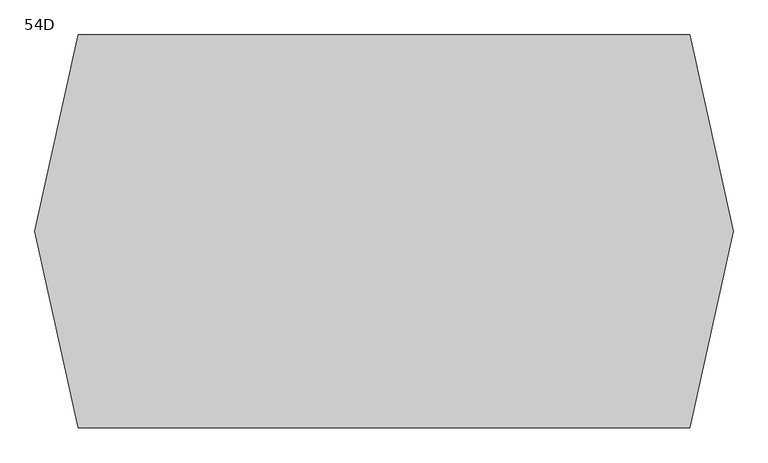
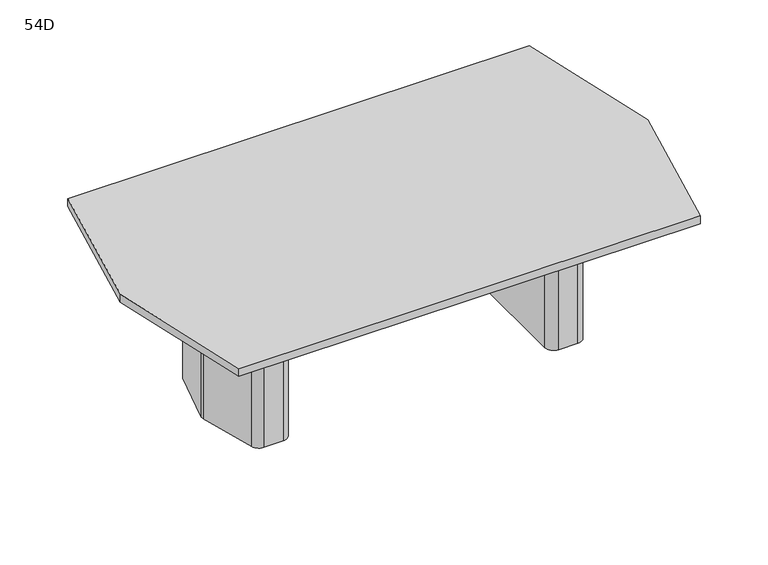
"""IFC4 building model written with IfcOpenShell, lengths in millimetres: furniture geometry, Coalesse_AM_Table_Conference_ETable2_Faceted_96in_TwoBase : 54D."""

from ifc_helpers import new_model, si_unit, frame, origin, place, context, project, spatial, polyline, circle_curve, outline, extrude, source, transform, mapped, element, save
from ifc_brep_helpers import plane_surface, cylinder_surface, revolved_surface, advanced_brep


def furniture_54d_9dfbddc2(model_context):
    return source(origin(), model_context, "Body", "SolidModel", [
        advanced_brep(
        [(760.624548, 274.2093613, 698.5), (720.7579246, 304.8, 698.5), (631.825, 304.8, 698.5), (590.55, 263.525, 698.5), (590.55, -263.525, 698.5), (631.825, -304.8, 698.5), (720.7579246, -304.8, 698.5), (760.624548, -274.2093613, 698.5), (831.2503901, -10.6333708, 698.5), (831.2503901, 10.6333708, 698.5), (628.65, -206.375, 698.5), (628.65, 206.375, 698.5), (654.05, 231.775, 698.5), (713.0608422, 231.775, 698.5), (737.595338, 212.9490792, 698.5), (776.2875, 68.54974, 698.5), (776.2875, -68.54974, 698.5), (737.595338, -212.9490792, 698.5), (713.0608422, -231.775, 698.5), (654.05, -231.775, 698.5), (760.624548, 274.2093613, 3.175), (831.2503901, 10.6333708, 3.175), (831.2503901, -10.6333708, 3.175), (760.624548, -274.2093613, 3.175), (720.7579246, -304.8, 3.175), (631.825, -304.8, 3.175), (590.55, -263.525, 3.175), (590.55, 263.525, 3.175), (631.825, 304.8, 3.175), (720.7579246, 304.8, 3.175), (749.8625859, 216.2361187, 3.175), (713.0608422, 244.475, 3.175), (654.05, 244.475, 3.175), (615.95, 206.375, 3.175), (615.95, -206.375, 3.175), (654.05, -244.475, 3.175), (713.0608422, -244.475, 3.175), (749.8625859, -216.2361187, 3.175), (788.9875, -70.2217466, 3.175), (788.9875, 70.2217466, 3.175), (654.05, -231.775, 3.175), (628.65, -206.375, 3.175), (713.0608422, -231.775, 3.175), (737.595338, -212.9490792, 3.175), (776.2875, -68.54974, 3.175), (776.2875, 68.54974, 3.175), (737.595338, 212.9490792, 3.175), (713.0608422, 231.775, 3.175), (654.05, 231.775, 3.175), (628.65, 206.375, 3.175), (749.8625859, 216.2361187, 0.0), (788.9875, 70.2217466, 0.0), (788.9875, -70.2217466, 0.0), (749.8625859, -216.2361187, 0.0), (713.0608422, -244.475, 0.0), (654.05, -244.475, 0.0), (615.95, -206.375, 0.0), (615.95, 206.375, 0.0), (654.05, 244.475, 0.0), (713.0608422, 244.475, 0.0)],
        [
            (0, 1, circle_curve(frame((720.7579246, 263.5270004, 698.5), z_axis=(0.0, 0.0, 1.0), x_axis=(-1.0, 0.0, 0.0)), 41.2729996)),
            (1, 2),
            (2, 3, circle_curve(frame((631.825, 263.525, 698.5), z_axis=(0.0, 0.0, 1.0), x_axis=(-1.0, 0.0, 0.0)), 41.275)),
            (3, 4),
            (4, 5, circle_curve(frame((631.825, -263.525, 698.5), z_axis=(0.0, 0.0, 1.0), x_axis=(-1.0, 0.0, 0.0)), 41.275)),
            (5, 6),
            (6, 7, circle_curve(frame((720.7579246, -263.5270004, 698.5), z_axis=(0.0, 0.0, 1.0), x_axis=(-1.0, 0.0, 0.0)), 41.2729996)),
            (7, 8),
            (8, 9, circle_curve(frame((791.5665979, 0.0, 698.5), z_axis=(0.0, 0.0, 1.0), x_axis=(-1.0, 0.0, 0.0)), 41.0837187)),
            (9, 0),
            (10, 11),
            (11, 12, circle_curve(frame((654.05, 206.375, 698.5), z_axis=(0.0, 0.0, -1.0), x_axis=(-1.0, 0.0, 0.0)), 25.4)),
            (12, 13),
            (13, 14, circle_curve(frame((713.0608422, 206.375, 698.5), z_axis=(0.0, 0.0, -1.0), x_axis=(-1.0, 0.0, 0.0)), 25.4)),
            (14, 15),
            (15, 16),
            (16, 17),
            (17, 18, circle_curve(frame((713.0608422, -206.375, 698.5), z_axis=(0.0, 0.0, -1.0), x_axis=(-1.0, 0.0, 0.0)), 25.4)),
            (18, 19),
            (19, 10, circle_curve(frame((654.05, -206.375, 698.5), z_axis=(0.0, 0.0, -1.0), x_axis=(-1.0, 0.0, 0.0)), 25.4)),
            (20, 21),
            (21, 22, circle_curve(frame((791.5665979, 0.0, 3.175), z_axis=(0.0, 0.0, -1.0), x_axis=(-1.0, 0.0, 0.0)), 41.0837187)),
            (22, 23),
            (23, 24, circle_curve(frame((720.7579246, -263.5270004, 3.175), z_axis=(0.0, 0.0, -1.0), x_axis=(-1.0, 0.0, 0.0)), 41.2729996)),
            (24, 25),
            (25, 26, circle_curve(frame((631.825, -263.525, 3.175), z_axis=(0.0, 0.0, -1.0), x_axis=(-1.0, 0.0, 0.0)), 41.275)),
            (26, 27),
            (27, 28, circle_curve(frame((631.825, 263.525, 3.175), z_axis=(0.0, 0.0, -1.0), x_axis=(-1.0, 0.0, 0.0)), 41.275)),
            (28, 29),
            (29, 20, circle_curve(frame((720.7579246, 263.5270004, 3.175), z_axis=(0.0, 0.0, -1.0), x_axis=(-1.0, 0.0, 0.0)), 41.2729996)),
            (30, 31, circle_curve(frame((713.0608422, 206.375, 3.175), z_axis=(0.0, 0.0, 1.0), x_axis=(-1.0, 0.0, 0.0)), 38.1)),
            (31, 32),
            (32, 33, circle_curve(frame((654.05, 206.375, 3.175), z_axis=(0.0, 0.0, 1.0), x_axis=(-1.0, 0.0, 0.0)), 38.1)),
            (33, 34),
            (34, 35, circle_curve(frame((654.05, -206.375, 3.175), z_axis=(0.0, 0.0, 1.0), x_axis=(-1.0, 0.0, 0.0)), 38.1)),
            (35, 36),
            (36, 37, circle_curve(frame((713.0608422, -206.375, 3.175), z_axis=(0.0, 0.0, 1.0), x_axis=(-1.0, 0.0, 0.0)), 38.1)),
            (37, 38),
            (38, 39),
            (39, 30),
            (9, 21),
            (20, 0),
            (8, 22),
            (7, 23),
            (6, 24),
            (5, 25),
            (4, 26),
            (3, 27),
            (2, 28),
            (1, 29),
            (19, 40),
            (40, 41, circle_curve(frame((654.05, -206.375, 3.175), z_axis=(0.0, 0.0, -1.0), x_axis=(-1.0, 0.0, 0.0)), 25.4)),
            (41, 10),
            (18, 42),
            (42, 40),
            (17, 43),
            (43, 42, circle_curve(frame((713.0608422, -206.375, 3.175), z_axis=(0.0, 0.0, -1.0), x_axis=(-1.0, 0.0, 0.0)), 25.4)),
            (16, 44),
            (44, 43),
            (15, 45),
            (45, 44),
            (14, 46),
            (46, 45),
            (13, 47),
            (47, 46, circle_curve(frame((713.0608422, 206.375, 3.175), z_axis=(0.0, 0.0, -1.0), x_axis=(-1.0, 0.0, 0.0)), 25.4)),
            (12, 48),
            (48, 47),
            (11, 49),
            (49, 48, circle_curve(frame((654.05, 206.375, 3.175), z_axis=(0.0, 0.0, -1.0), x_axis=(-1.0, 0.0, 0.0)), 25.4)),
            (41, 49),
            (50, 51),
            (51, 52),
            (52, 53),
            (53, 54, circle_curve(frame((713.0608422, -206.375, 0.0), z_axis=(0.0, 0.0, -1.0), x_axis=(-1.0, 0.0, 0.0)), 38.1)),
            (54, 55),
            (55, 56, circle_curve(frame((654.05, -206.375, 0.0), z_axis=(0.0, 0.0, -1.0), x_axis=(-1.0, 0.0, 0.0)), 38.1)),
            (56, 57),
            (57, 58, circle_curve(frame((654.05, 206.375, 0.0), z_axis=(0.0, 0.0, -1.0), x_axis=(-1.0, 0.0, 0.0)), 38.1)),
            (58, 59),
            (59, 50, circle_curve(frame((713.0608422, 206.375, 0.0), z_axis=(0.0, 0.0, -1.0), x_axis=(-1.0, 0.0, 0.0)), 38.1)),
            (50, 30),
            (39, 51),
            (38, 52),
            (37, 53),
            (36, 54),
            (35, 55),
            (34, 56),
            (33, 57),
            (32, 58),
            (31, 59),
        ],
        [
            plane_surface(frame((831.2374275, 10.6817473, 698.5), z_axis=(0.0, 0.0, 1.0000000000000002), x_axis=(0.25882201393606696, -0.9659250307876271, 0.0))),
            plane_surface(frame((831.2374275, 10.6817473, 3.175), z_axis=(0.0, 0.0, -1.0000000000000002), x_axis=(-0.25882201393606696, 0.9659250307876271, 0.0))),
            plane_surface(frame((760.624548, 274.2093613, 698.5), z_axis=(0.9659250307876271, 0.25882201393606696, 0.0), x_axis=(0.0, 0.0, -1.0))),
            cylinder_surface(frame((791.5665979, 0.0, 3.175), z_axis=(0.0, 0.0, 1.0), x_axis=(-1.0, 0.0, 0.0)), 41.0837187),
            plane_surface(frame((831.2503901, -10.6333708, 698.5), z_axis=(0.9659250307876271, -0.2588220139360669, 0.0), x_axis=(0.0, 0.0, -1.0))),
            cylinder_surface(frame((720.7579246, -263.5270004, 3.175), z_axis=(0.0, 0.0, 1.0), x_axis=(-1.0, 0.0, 0.0)), 41.2729996),
            plane_surface(frame((720.7579246, -304.8, 698.5), z_axis=(0.0, -1.0, 0.0), x_axis=(0.0, 0.0, -1.0))),
            cylinder_surface(frame((631.825, -263.525, 3.175), z_axis=(0.0, 0.0, 1.0), x_axis=(-1.0, 0.0, 0.0)), 41.275),
            plane_surface(frame((590.55, -263.525, 698.5), z_axis=(-1.0, 0.0, 0.0), x_axis=(0.0, 0.0, -1.0))),
            cylinder_surface(frame((631.825, 263.525, 3.175), z_axis=(0.0, 0.0, 1.0), x_axis=(-1.0, 0.0, 0.0)), 41.275),
            plane_surface(frame((631.825, 304.8, 698.5), z_axis=(0.0, 1.0, 0.0), x_axis=(0.0, 0.0, -1.0))),
            cylinder_surface(frame((720.7579246, 263.5270004, 3.175), z_axis=(0.0, 0.0, 1.0), x_axis=(-1.0, 0.0, 0.0)), 41.2729996),
            revolved_surface(polyline([(628.65, -206.375, 3.175), (628.65, -206.375, 698.5)]), (654.05, -206.375, 0.0), (0.0, 0.0, -1.0)),
            plane_surface(frame((654.05, -231.775, 698.5), z_axis=(0.0, 1.0, 0.0), x_axis=(0.0, 0.0, -1.0))),
            revolved_surface(polyline([(687.6608422, -206.375, 3.175), (687.6608422, -206.375, 698.5)]), (713.0608422, -206.375, 0.0), (0.0, 0.0, -1.0)),
            plane_surface(frame((737.595338, -212.9490792, 698.5), z_axis=(-0.9659250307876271, 0.2588220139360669, 0.0), x_axis=(0.0, 0.0, -1.0))),
            plane_surface(frame((776.2875, -68.54974, 698.5), z_axis=(-1.0, 0.0, 0.0), x_axis=(0.0, 0.0, -1.0))),
            plane_surface(frame((776.2875, 68.54974, 698.5), z_axis=(-0.9659250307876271, -0.25882201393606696, 0.0), x_axis=(0.0, 0.0, -1.0))),
            revolved_surface(polyline([(687.6608422, 206.375, 3.175), (687.6608422, 206.375, 698.5)]), (713.0608422, 206.375, 0.0), (0.0, 0.0, -1.0)),
            plane_surface(frame((713.0608422, 231.775, 698.5), z_axis=(0.0, -1.0, 0.0), x_axis=(0.0, 0.0, -1.0))),
            revolved_surface(polyline([(628.65, 206.375, 3.175), (628.65, 206.375, 698.5)]), (654.05, 206.375, 0.0), (0.0, 0.0, -1.0)),
            plane_surface(frame((628.65, 206.375, 698.5), z_axis=(1.0, 0.0, 0.0), x_axis=(0.0, 0.0, -1.0))),
            plane_surface(frame((788.5547479, 71.8367796, 3.175), z_axis=(0.0, 0.0, 1.0), x_axis=(0.25882201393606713, -0.965925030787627, 0.0))),
            plane_surface(frame((788.5547479, 71.8367796, 0.0), z_axis=(0.0, 0.0, -1.0), x_axis=(-0.25882201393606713, 0.965925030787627, 0.0))),
            plane_surface(frame((749.8625859, 216.2361187, 3.175), z_axis=(0.965925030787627, 0.25882201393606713, 0.0), x_axis=(0.0, 0.0, -1.0))),
            plane_surface(frame((788.9875, 70.2217466, 3.175), z_axis=(1.0, 0.0, 0.0), x_axis=(0.0, 0.0, -1.0))),
            plane_surface(frame((788.9875, -70.2217466, 3.175), z_axis=(0.9659250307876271, -0.2588220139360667, 0.0), x_axis=(0.0, 0.0, -1.0))),
            cylinder_surface(frame((713.0608422, -206.375, 0.0), z_axis=(0.0, 0.0, 1.0), x_axis=(-1.0, 0.0, 0.0)), 38.1),
            plane_surface(frame((713.0608422, -244.475, 3.175), z_axis=(0.0, -1.0, 0.0), x_axis=(0.0, 0.0, -1.0))),
            cylinder_surface(frame((654.05, -206.375, 0.0), z_axis=(0.0, 0.0, 1.0), x_axis=(-1.0, 0.0, 0.0)), 38.1),
            plane_surface(frame((615.95, -206.375, 3.175), z_axis=(-1.0, 0.0, 0.0), x_axis=(0.0, 0.0, -1.0))),
            cylinder_surface(frame((654.05, 206.375, 0.0), z_axis=(0.0, 0.0, 1.0), x_axis=(-1.0, 0.0, 0.0)), 38.1),
            plane_surface(frame((654.05, 244.475, 3.175), z_axis=(0.0, 1.0, 0.0), x_axis=(0.0, 0.0, -1.0))),
            cylinder_surface(frame((713.0608422, 206.375, 0.0), z_axis=(0.0, 0.0, 1.0), x_axis=(-1.0, 0.0, 0.0)), 38.1),
        ],
        [
            (0, [[1, 2, 3, 4, 5, 6, 7, 8, 9, 10], [11, 12, 13, 14, 15, 16, 17, 18, 19, 20]]),
            (1, [[21, 22, 23, 24, 25, 26, 27, 28, 29, 30], [31, 32, 33, 34, 35, 36, 37, 38, 39, 40]]),
            (2, [[41, -21, 42, -10]]),
            (3, [[43, -22, -41, -9]]),
            (4, [[44, -23, -43, -8]]),
            (5, [[45, -24, -44, -7]]),
            (6, [[46, -25, -45, -6]]),
            (7, [[47, -26, -46, -5]]),
            (8, [[48, -27, -47, -4]]),
            (9, [[49, -28, -48, -3]]),
            (10, [[50, -29, -49, -2]]),
            (11, [[-42, -30, -50, -1]]),
            (12, [[51, 52, 53, -20]]),
            (13, [[54, 55, -51, -19]]),
            (14, [[56, 57, -54, -18]]),
            (15, [[58, 59, -56, -17]]),
            (16, [[60, 61, -58, -16]]),
            (17, [[62, 63, -60, -15]]),
            (18, [[64, 65, -62, -14]]),
            (19, [[66, 67, -64, -13]]),
            (20, [[68, 69, -66, -12]]),
            (21, [[-53, 70, -68, -11]]),
            (22, [[-55, -57, -59, -61, -63, -65, -67, -69, -70, -52]]),
            (23, [[71, 72, 73, 74, 75, 76, 77, 78, 79, 80]]),
            (24, [[81, -40, 82, -71]]),
            (25, [[-82, -39, 83, -72]]),
            (26, [[-83, -38, 84, -73]]),
            (27, [[-84, -37, 85, -74]]),
            (28, [[-85, -36, 86, -75]]),
            (29, [[-86, -35, 87, -76]]),
            (30, [[-87, -34, 88, -77]]),
            (31, [[-88, -33, 89, -78]]),
            (32, [[-89, -32, 90, -79]]),
            (33, [[-90, -31, -81, -80]]),
        ],
    ),
        advanced_brep(
        [(-771.737048, 274.2093613, 698.5), (-842.3628901, 10.6333708, 698.5), (-842.3628901, -10.6333708, 698.5), (-771.737048, -274.2093613, 698.5), (-731.8704246, -304.8, 698.5), (-642.9375, -304.8, 698.5), (-601.6625, -263.525, 698.5), (-601.6625, 263.525, 698.5), (-642.9375, 304.8, 698.5), (-731.8704246, 304.8, 698.5), (-639.7625, -206.375, 698.5), (-665.1625, -231.775, 698.5), (-724.1733422, -231.775, 698.5), (-748.707838, -212.9490792, 698.5), (-787.4, -68.54974, 698.5), (-787.4, 68.54974, 698.5), (-748.707838, 212.9490792, 698.5), (-724.1733422, 231.775, 698.5), (-665.1625, 231.775, 698.5), (-639.7625, 206.375, 698.5), (-771.737048, 274.2093613, 3.175), (-731.8704246, 304.8, 3.175), (-642.9375, 304.8, 3.175), (-601.6625, 263.525, 3.175), (-601.6625, -263.525, 3.175), (-642.9375, -304.8, 3.175), (-731.8704246, -304.8, 3.175), (-771.737048, -274.2093613, 3.175), (-842.3628901, -10.6333708, 3.175), (-842.3628901, 10.6333708, 3.175), (-760.9750859, 216.2361187, 3.175), (-800.1, 70.2217466, 3.175), (-800.1, -70.2217466, 3.175), (-760.9750859, -216.2361187, 3.175), (-724.1733422, -244.475, 3.175), (-665.1625, -244.475, 3.175), (-627.0625, -206.375, 3.175), (-627.0625, 206.375, 3.175), (-665.1625, 244.475, 3.175), (-724.1733422, 244.475, 3.175), (-639.7625, -206.375, 3.175), (-665.1625, -231.775, 3.175), (-724.1733422, -231.775, 3.175), (-748.707838, -212.9490792, 3.175), (-787.4, -68.54974, 3.175), (-787.4, 68.54974, 3.175), (-748.707838, 212.9490792, 3.175), (-724.1733422, 231.775, 3.175), (-665.1625, 231.775, 3.175), (-639.7625, 206.375, 3.175), (-760.9750859, 216.2361187, 0.0), (-724.1733422, 244.475, 0.0), (-665.1625, 244.475, 0.0), (-627.0625, 206.375, 0.0), (-627.0625, -206.375, 0.0), (-665.1625, -244.475, 0.0), (-724.1733422, -244.475, 0.0), (-760.9750859, -216.2361187, 0.0), (-800.1, -70.2217466, 0.0), (-800.1, 70.2217466, 0.0)],
        [
            (0, 1),
            (1, 2, circle_curve(frame((-802.6790979, 0.0, 698.5), z_axis=(0.0, 0.0, 1.0), x_axis=(1.0, 0.0, 0.0)), 41.0837187)),
            (2, 3),
            (3, 4, circle_curve(frame((-731.8704246, -263.5270004, 698.5), z_axis=(0.0, 0.0, 1.0), x_axis=(1.0, 0.0, 0.0)), 41.2729996)),
            (4, 5),
            (5, 6, circle_curve(frame((-642.9375, -263.525, 698.5), z_axis=(0.0, 0.0, 1.0), x_axis=(1.0, 0.0, 0.0)), 41.275)),
            (6, 7),
            (7, 8, circle_curve(frame((-642.9375, 263.525, 698.5), z_axis=(0.0, 0.0, 1.0), x_axis=(1.0, 0.0, 0.0)), 41.275)),
            (8, 9),
            (9, 0, circle_curve(frame((-731.8704246, 263.5270004, 698.5), z_axis=(0.0, 0.0, 1.0), x_axis=(1.0, 0.0, 0.0)), 41.2729996)),
            (10, 11, circle_curve(frame((-665.1625, -206.375, 698.5), z_axis=(0.0, 0.0, -1.0), x_axis=(1.0, 0.0, 0.0)), 25.4)),
            (11, 12),
            (12, 13, circle_curve(frame((-724.1733422, -206.375, 698.5), z_axis=(0.0, 0.0, -1.0), x_axis=(1.0, 0.0, 0.0)), 25.4)),
            (13, 14),
            (14, 15),
            (15, 16),
            (16, 17, circle_curve(frame((-724.1733422, 206.375, 698.5), z_axis=(0.0, 0.0, -1.0), x_axis=(1.0, 0.0, 0.0)), 25.4)),
            (17, 18),
            (18, 19, circle_curve(frame((-665.1625, 206.375, 698.5), z_axis=(0.0, 0.0, -1.0), x_axis=(1.0, 0.0, 0.0)), 25.4)),
            (19, 10),
            (20, 21, circle_curve(frame((-731.8704246, 263.5270004, 3.175), z_axis=(0.0, 0.0, -1.0), x_axis=(1.0, 0.0, 0.0)), 41.2729996)),
            (21, 22),
            (22, 23, circle_curve(frame((-642.9375, 263.525, 3.175), z_axis=(0.0, 0.0, -1.0), x_axis=(1.0, 0.0, 0.0)), 41.275)),
            (23, 24),
            (24, 25, circle_curve(frame((-642.9375, -263.525, 3.175), z_axis=(0.0, 0.0, -1.0), x_axis=(1.0, 0.0, 0.0)), 41.275)),
            (25, 26),
            (26, 27, circle_curve(frame((-731.8704246, -263.5270004, 3.175), z_axis=(0.0, 0.0, -1.0), x_axis=(1.0, 0.0, 0.0)), 41.2729996)),
            (27, 28),
            (28, 29, circle_curve(frame((-802.6790979, 0.0, 3.175), z_axis=(0.0, 0.0, -1.0), x_axis=(1.0, 0.0, 0.0)), 41.0837187)),
            (29, 20),
            (30, 31),
            (31, 32),
            (32, 33),
            (33, 34, circle_curve(frame((-724.1733422, -206.375, 3.175), z_axis=(0.0, 0.0, 1.0), x_axis=(1.0, 0.0, 0.0)), 38.1)),
            (34, 35),
            (35, 36, circle_curve(frame((-665.1625, -206.375, 3.175), z_axis=(0.0, 0.0, 1.0), x_axis=(1.0, 0.0, 0.0)), 38.1)),
            (36, 37),
            (37, 38, circle_curve(frame((-665.1625, 206.375, 3.175), z_axis=(0.0, 0.0, 1.0), x_axis=(1.0, 0.0, 0.0)), 38.1)),
            (38, 39),
            (39, 30, circle_curve(frame((-724.1733422, 206.375, 3.175), z_axis=(0.0, 0.0, 1.0), x_axis=(1.0, 0.0, 0.0)), 38.1)),
            (0, 20),
            (29, 1),
            (28, 2),
            (27, 3),
            (26, 4),
            (25, 5),
            (24, 6),
            (23, 7),
            (22, 8),
            (21, 9),
            (10, 40),
            (40, 41, circle_curve(frame((-665.1625, -206.375, 3.175), z_axis=(0.0, 0.0, -1.0), x_axis=(1.0, 0.0, 0.0)), 25.4)),
            (41, 11),
            (41, 42),
            (42, 12),
            (42, 43, circle_curve(frame((-724.1733422, -206.375, 3.175), z_axis=(0.0, 0.0, -1.0), x_axis=(1.0, 0.0, 0.0)), 25.4)),
            (43, 13),
            (43, 44),
            (44, 14),
            (44, 45),
            (45, 15),
            (45, 46),
            (46, 16),
            (46, 47, circle_curve(frame((-724.1733422, 206.375, 3.175), z_axis=(0.0, 0.0, -1.0), x_axis=(1.0, 0.0, 0.0)), 25.4)),
            (47, 17),
            (47, 48),
            (48, 18),
            (48, 49, circle_curve(frame((-665.1625, 206.375, 3.175), z_axis=(0.0, 0.0, -1.0), x_axis=(1.0, 0.0, 0.0)), 25.4)),
            (49, 19),
            (49, 40),
            (50, 51, circle_curve(frame((-724.1733422, 206.375, 0.0), z_axis=(0.0, 0.0, -1.0), x_axis=(1.0, 0.0, 0.0)), 38.1)),
            (51, 52),
            (52, 53, circle_curve(frame((-665.1625, 206.375, 0.0), z_axis=(0.0, 0.0, -1.0), x_axis=(1.0, 0.0, 0.0)), 38.1)),
            (53, 54),
            (54, 55, circle_curve(frame((-665.1625, -206.375, 0.0), z_axis=(0.0, 0.0, -1.0), x_axis=(1.0, 0.0, 0.0)), 38.1)),
            (55, 56),
            (56, 57, circle_curve(frame((-724.1733422, -206.375, 0.0), z_axis=(0.0, 0.0, -1.0), x_axis=(1.0, 0.0, 0.0)), 38.1)),
            (57, 58),
            (58, 59),
            (59, 50),
            (59, 31),
            (30, 50),
            (58, 32),
            (57, 33),
            (56, 34),
            (55, 35),
            (54, 36),
            (53, 37),
            (52, 38),
            (51, 39),
        ],
        [
            plane_surface(frame((-842.3499275, 10.6817473, 698.5), z_axis=(0.0, 0.0, 1.0000000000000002), x_axis=(-0.25882201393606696, -0.9659250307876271, 0.0))),
            plane_surface(frame((-842.3499275, 10.6817473, 3.175), z_axis=(0.0, 0.0, -1.0000000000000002), x_axis=(0.25882201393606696, 0.9659250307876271, 0.0))),
            plane_surface(frame((-771.737048, 274.2093613, 698.5), z_axis=(-0.9659250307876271, 0.25882201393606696, 0.0), x_axis=(0.0, 0.0, -1.0))),
            cylinder_surface(frame((-802.6790979, 0.0, 3.175), z_axis=(0.0, 0.0, 1.0), x_axis=(1.0, 0.0, 0.0)), 41.0837187),
            plane_surface(frame((-842.3628901, -10.6333708, 698.5), z_axis=(-0.9659250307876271, -0.2588220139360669, 0.0), x_axis=(0.0, 0.0, -1.0))),
            cylinder_surface(frame((-731.8704246, -263.5270004, 3.175), z_axis=(0.0, 0.0, 1.0), x_axis=(1.0, 0.0, 0.0)), 41.2729996),
            plane_surface(frame((-731.8704246, -304.8, 698.5), z_axis=(0.0, -1.0, 0.0), x_axis=(0.0, 0.0, -1.0))),
            cylinder_surface(frame((-642.9375, -263.525, 3.175), z_axis=(0.0, 0.0, 1.0), x_axis=(1.0, 0.0, 0.0)), 41.275),
            plane_surface(frame((-601.6625, -263.525, 698.5), z_axis=(1.0, 0.0, 0.0), x_axis=(0.0, 0.0, -1.0))),
            cylinder_surface(frame((-642.9375, 263.525, 3.175), z_axis=(0.0, 0.0, 1.0), x_axis=(1.0, 0.0, 0.0)), 41.275),
            plane_surface(frame((-642.9375, 304.8, 698.5), z_axis=(0.0, 1.0, 0.0), x_axis=(0.0, 0.0, -1.0))),
            cylinder_surface(frame((-731.8704246, 263.5270004, 3.175), z_axis=(0.0, 0.0, 1.0), x_axis=(1.0, 0.0, 0.0)), 41.2729996),
            revolved_surface(polyline([(-639.7625, -206.375, 3.175), (-639.7625, -206.375, 698.5)]), (-665.1625, -206.375, 0.0), (0.0, 0.0, -1.0)),
            plane_surface(frame((-665.1625, -231.775, 698.5), z_axis=(0.0, 1.0, 0.0), x_axis=(0.0, 0.0, -1.0))),
            revolved_surface(polyline([(-698.7733422, -206.375, 3.175), (-698.7733422, -206.375, 698.5)]), (-724.1733422, -206.375, 0.0), (0.0, 0.0, -1.0)),
            plane_surface(frame((-748.707838, -212.9490792, 698.5), z_axis=(0.9659250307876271, 0.2588220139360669, 0.0), x_axis=(0.0, 0.0, -1.0))),
            plane_surface(frame((-787.4, -68.54974, 698.5), z_axis=(1.0, 0.0, 0.0), x_axis=(0.0, 0.0, -1.0))),
            plane_surface(frame((-787.4, 68.54974, 698.5), z_axis=(0.9659250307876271, -0.25882201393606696, 0.0), x_axis=(0.0, 0.0, -1.0))),
            revolved_surface(polyline([(-698.7733422, 206.375, 3.175), (-698.7733422, 206.375, 698.5)]), (-724.1733422, 206.375, 0.0), (0.0, 0.0, -1.0)),
            plane_surface(frame((-724.1733422, 231.775, 698.5), z_axis=(0.0, -1.0, 0.0), x_axis=(0.0, 0.0, -1.0))),
            revolved_surface(polyline([(-639.7625, 206.375, 3.175), (-639.7625, 206.375, 698.5)]), (-665.1625, 206.375, 0.0), (0.0, 0.0, -1.0)),
            plane_surface(frame((-639.7625, 206.375, 698.5), z_axis=(-1.0, 0.0, 0.0), x_axis=(0.0, 0.0, -1.0))),
            plane_surface(frame((-799.6672479, 71.8367796, 3.175), z_axis=(0.0, 0.0, 1.0), x_axis=(-0.25882201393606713, -0.965925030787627, 0.0))),
            plane_surface(frame((-799.6672479, 71.8367796, 0.0), z_axis=(0.0, 0.0, -1.0), x_axis=(0.25882201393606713, 0.965925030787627, 0.0))),
            plane_surface(frame((-760.9750859, 216.2361187, 3.175), z_axis=(-0.965925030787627, 0.25882201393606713, 0.0), x_axis=(0.0, 0.0, -1.0))),
            plane_surface(frame((-800.1, 70.2217466, 3.175), z_axis=(-1.0, 0.0, 0.0), x_axis=(0.0, 0.0, -1.0))),
            plane_surface(frame((-800.1, -70.2217466, 3.175), z_axis=(-0.9659250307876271, -0.2588220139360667, 0.0), x_axis=(0.0, 0.0, -1.0))),
            cylinder_surface(frame((-724.1733422, -206.375, 0.0), z_axis=(0.0, 0.0, 1.0), x_axis=(1.0, 0.0, 0.0)), 38.1),
            plane_surface(frame((-724.1733422, -244.475, 3.175), z_axis=(0.0, -1.0, 0.0), x_axis=(0.0, 0.0, -1.0))),
            cylinder_surface(frame((-665.1625, -206.375, 0.0), z_axis=(0.0, 0.0, 1.0), x_axis=(1.0, 0.0, 0.0)), 38.1),
            plane_surface(frame((-627.0625, -206.375, 3.175), z_axis=(1.0, 0.0, 0.0), x_axis=(0.0, 0.0, -1.0))),
            cylinder_surface(frame((-665.1625, 206.375, 0.0), z_axis=(0.0, 0.0, 1.0), x_axis=(1.0, 0.0, 0.0)), 38.1),
            plane_surface(frame((-665.1625, 244.475, 3.175), z_axis=(0.0, 1.0, 0.0), x_axis=(0.0, 0.0, -1.0))),
            cylinder_surface(frame((-724.1733422, 206.375, 0.0), z_axis=(0.0, 0.0, 1.0), x_axis=(1.0, 0.0, 0.0)), 38.1),
        ],
        [
            (0, [[1, 2, 3, 4, 5, 6, 7, 8, 9, 10], [11, 12, 13, 14, 15, 16, 17, 18, 19, 20]]),
            (1, [[21, 22, 23, 24, 25, 26, 27, 28, 29, 30], [31, 32, 33, 34, 35, 36, 37, 38, 39, 40]]),
            (2, [[-1, 41, -30, 42]]),
            (3, [[-2, -42, -29, 43]]),
            (4, [[-3, -43, -28, 44]]),
            (5, [[-4, -44, -27, 45]]),
            (6, [[-5, -45, -26, 46]]),
            (7, [[-6, -46, -25, 47]]),
            (8, [[-7, -47, -24, 48]]),
            (9, [[-8, -48, -23, 49]]),
            (10, [[-9, -49, -22, 50]]),
            (11, [[-10, -50, -21, -41]]),
            (12, [[-11, 51, 52, 53]]),
            (13, [[-12, -53, 54, 55]]),
            (14, [[-13, -55, 56, 57]]),
            (15, [[-14, -57, 58, 59]]),
            (16, [[-15, -59, 60, 61]]),
            (17, [[-16, -61, 62, 63]]),
            (18, [[-17, -63, 64, 65]]),
            (19, [[-18, -65, 66, 67]]),
            (20, [[-19, -67, 68, 69]]),
            (21, [[-20, -69, 70, -51]]),
            (22, [[-52, -70, -68, -66, -64, -62, -60, -58, -56, -54]]),
            (23, [[71, 72, 73, 74, 75, 76, 77, 78, 79, 80]]),
            (24, [[-80, 81, -31, 82]]),
            (25, [[-79, 83, -32, -81]]),
            (26, [[-78, 84, -33, -83]]),
            (27, [[-77, 85, -34, -84]]),
            (28, [[-76, 86, -35, -85]]),
            (29, [[-75, 87, -36, -86]]),
            (30, [[-74, 88, -37, -87]]),
            (31, [[-73, 89, -38, -88]]),
            (32, [[-72, 90, -39, -89]]),
            (33, [[-71, -82, -40, -90]]),
        ],
    ),
        extrude(outline(polyline([(96.8375, 698.5), (103.1875, 698.5), (103.1875, 476.25), (-103.1875, 476.25), (-103.1875, 698.5), (-96.8375, 698.5), (-96.8375, 482.6), (96.8375, 482.6), (96.8375, 698.5)])), frame((-601.6625, 0.0, 0.0), z_axis=(1.0, 0.0, 0.0), x_axis=(0.0, 1.0, 0.0)), (0.0, 0.0, 1.0), 1192.2125),
        extrude(outline(polyline([(1067.1609518, 685.8), (1219.2, 0.0), (1067.1609518, -685.8), (-1067.1609518, -685.8), (-1219.2, 0.0), (-1067.1609518, 685.8), (1067.1609518, 685.8)])), frame((0.0, 0.0, 698.5), z_axis=(0.0, 0.0, 1.0), x_axis=(1.0, 0.0, 0.0)), (0.0, 0.0, 1.0), 38.1),
    ])


if __name__ == "__main__":
    model = new_model("IFC4")
    model_context = context("Model", 3, world=origin())
    ifc_project = project(units=[si_unit("LENGTHUNIT", "METRE", prefix="MILLI")], contexts=[model_context])
    site = spatial("IfcSite", under=ifc_project)
    building = spatial("IfcBuilding", under=site)
    placement = place(None, origin())
    furniture_54d_shape = furniture_54d_9dfbddc2(model_context)
    element("IfcFurniture", 1, ObjectType="Coalesse_AM_Table_Conference_ETable2_Faceted_96in_TwoBase : 54D", at=placement, inside=building, context=model_context, shape_type="MappedRepresentation", body=[
        mapped(furniture_54d_shape, transform((0.0, 0.0, 0.0), x_axis=(1.0, 0.0, 0.0), y_axis=(0.0, 1.0, 0.0), z_axis=(0.0, 0.0, 1.0))),
    ])
    save(model, "model.ifc")
